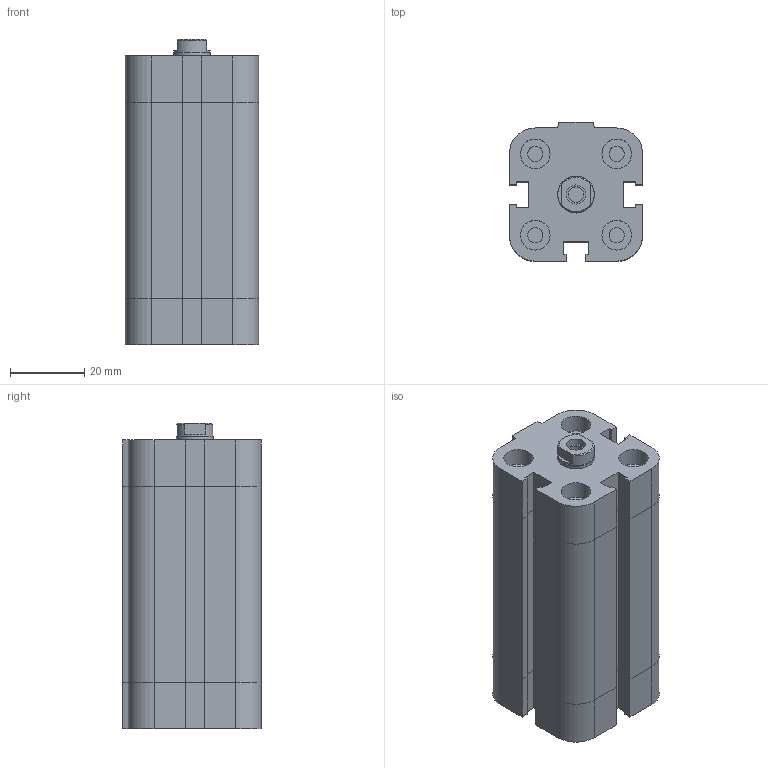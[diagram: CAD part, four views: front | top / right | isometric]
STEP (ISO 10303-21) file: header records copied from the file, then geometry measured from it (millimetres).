
FILE_DESCRIPTION((''),'2;1');
FILE_NAME('I:\Area Tecnica\Disegni\VARIE-3D\Componenti\EUROPE\15##_###_####_01_#\1581_20_0040_01_1.stp','2008-12-19T15:39:33',('rivolro1'),(''),'Autodesk Inventor 2009','Autodesk Inventor 2009','');
FILE_SCHEMA(('AUTOMOTIVE_DESIGN { 1 0 10303 214 1 1 1 1 }'));
Length unit declared in the file: millimetre
Products named in the file (3): 1581_20_0040_01_1; 1581_20_0040_01_1_C; 1561_20_0040_01_1_S
Assembly tree (2 placements, depth 2):
  1581_20_0040_01_1
    1581_20_0040_01_1_C
    1561_20_0040_01_1_S
Bounding box: 36 x 37.5 x 82.5 mm (x, y, z)
Volume: 87669.9 mm3; surface area: 22923.1 mm2
Topology: 2 solids, 2 shells, 163 faces, 349 edges, 211 vertices
Faces by surface type: plane 112, bspline 26, cylinder 22, cone 3
Full cylindrical faces by diameter (mm): 4.134 x4, 8 x4, 9.8 x1, 10 x1
Entity records: 4455 total; most frequent: CARTESIAN_POINT 952, DIRECTION 662, ORIENTED_EDGE 630, EDGE_CURVE 315, VECTOR 244, LINE 244, AXIS2_PLACEMENT_3D 209, EDGE_LOOP 208
